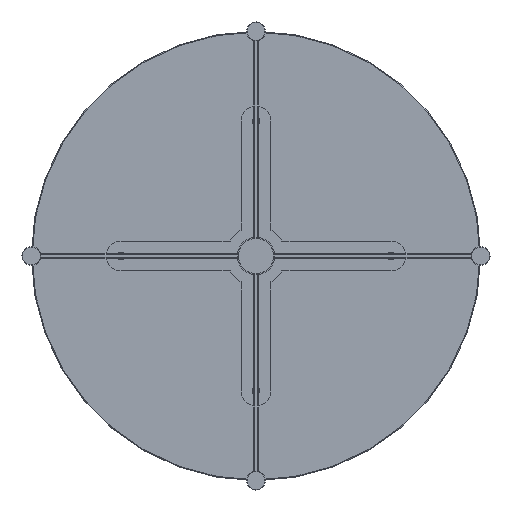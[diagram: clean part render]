
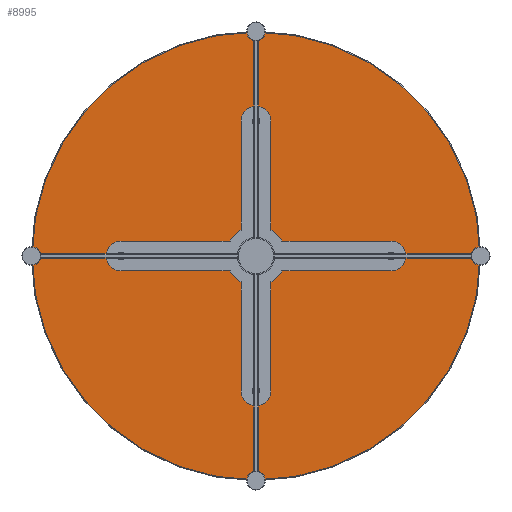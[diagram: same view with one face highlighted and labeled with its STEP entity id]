
A CAD part, front view. The second image highlights one B-rep face of the part: STEP entity #8995.
In plain terms, the highlighted planar face has unit normal (0, -1, 0).
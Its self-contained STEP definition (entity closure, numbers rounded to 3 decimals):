
#92 = CIRCLE ( 'NONE', #10940, 3. ) ;
#179 = CARTESIAN_POINT ( 'NONE',  ( 0., -10., 0. ) ) ;
#201 = DIRECTION ( 'NONE',  ( 0., 0., -1. ) ) ;
#323 = ORIENTED_EDGE ( 'NONE', *, *, #5792, .T. ) ;
#354 = DIRECTION ( 'NONE',  ( 0., 0., -1. ) ) ;
#372 = EDGE_CURVE ( 'NONE', #11084, #4681, #8305, .T. ) ;
#394 = DIRECTION ( 'NONE',  ( 0., 0., 1. ) ) ;
#427 = CARTESIAN_POINT ( 'NONE',  ( 0., -10., -299. ) ) ;
#643 = EDGE_LOOP ( 'NONE', ( #7289, #4114 ) ) ;
#648 = CARTESIAN_POINT ( 'NONE',  ( 0., -10., -177. ) ) ;
#885 = CIRCLE ( 'NONE', #2370, 3. ) ;
#887 = DIRECTION ( 'NONE',  ( 0., 0., -1. ) ) ;
#971 = CARTESIAN_POINT ( 'NONE',  ( 0., -10., -183. ) ) ;
#1002 = EDGE_CURVE ( 'NONE', #10027, #5142, #4578, .T. ) ;
#1136 = EDGE_CURVE ( 'NONE', #5836, #9392, #10999, .T. ) ;
#1318 = EDGE_LOOP ( 'NONE', ( #7001, #4859 ) ) ;
#1342 = DIRECTION ( 'NONE',  ( 0., 0., -1. ) ) ;
#1532 = DIRECTION ( 'NONE',  ( 0., 0., -1. ) ) ;
#1619 = CARTESIAN_POINT ( 'NONE',  ( 0., -10., -180. ) ) ;
#1697 = DIRECTION ( 'NONE',  ( 0., -1., 0. ) ) ;
#2021 = AXIS2_PLACEMENT_3D ( 'NONE', #10990, #5004, #10237 ) ;
#2101 = AXIS2_PLACEMENT_3D ( 'NONE', #179, #10015, #5536 ) ;
#2127 = FACE_BOUND ( 'NONE', #1318, .T. ) ;
#2370 = AXIS2_PLACEMENT_3D ( 'NONE', #7654, #11163, #1342 ) ;
#2379 = AXIS2_PLACEMENT_3D ( 'NONE', #11329, #7016, #7928 ) ;
#2553 = CARTESIAN_POINT ( 'NONE',  ( -180., -10., 3. ) ) ;
#2636 = CARTESIAN_POINT ( 'NONE',  ( 180., -10., -3. ) ) ;
#2671 = CARTESIAN_POINT ( 'NONE',  ( 0., -10., 180. ) ) ;
#2927 = CARTESIAN_POINT ( 'NONE',  ( 0., -10., 299. ) ) ;
#3160 = FACE_BOUND ( 'NONE', #643, .T. ) ;
#3212 = FACE_BOUND ( 'NONE', #5944, .T. ) ;
#3323 = DIRECTION ( 'NONE',  ( 0., -1., 0. ) ) ;
#3424 = ORIENTED_EDGE ( 'NONE', *, *, #9731, .T. ) ;
#3444 = CARTESIAN_POINT ( 'NONE',  ( 0., -10., 177. ) ) ;
#3847 = AXIS2_PLACEMENT_3D ( 'NONE', #6462, #9960, #354 ) ;
#4114 = ORIENTED_EDGE ( 'NONE', *, *, #5553, .F. ) ;
#4343 = ORIENTED_EDGE ( 'NONE', *, *, #8099, .F. ) ;
#4392 = CIRCLE ( 'NONE', #8789, 3. ) ;
#4419 = CIRCLE ( 'NONE', #2021, 3. ) ;
#4528 = DIRECTION ( 'NONE',  ( 0., -1., 0. ) ) ;
#4578 = CIRCLE ( 'NONE', #6407, 3. ) ;
#4594 = ORIENTED_EDGE ( 'NONE', *, *, #11031, .F. ) ;
#4681 = VERTEX_POINT ( 'NONE', #2553 ) ;
#4772 = PLANE ( 'NONE',  #11229 ) ;
#4803 = EDGE_LOOP ( 'NONE', ( #7521, #4343 ) ) ;
#4859 = ORIENTED_EDGE ( 'NONE', *, *, #7460, .F. ) ;
#4918 = CARTESIAN_POINT ( 'NONE',  ( 0., -10., 183. ) ) ;
#4937 = CARTESIAN_POINT ( 'NONE',  ( 0., -10., 0. ) ) ;
#4995 = CARTESIAN_POINT ( 'NONE',  ( -180., -10., -3. ) ) ;
#5004 = DIRECTION ( 'NONE',  ( 0., -1., 0. ) ) ;
#5142 = VERTEX_POINT ( 'NONE', #5778 ) ;
#5186 = EDGE_CURVE ( 'NONE', #9988, #6701, #4392, .T. ) ;
#5536 = DIRECTION ( 'NONE',  ( 0., 0., 1. ) ) ;
#5553 = EDGE_CURVE ( 'NONE', #6701, #9988, #11004, .T. ) ;
#5778 = CARTESIAN_POINT ( 'NONE',  ( 180., -10., 3. ) ) ;
#5784 = DIRECTION ( 'NONE',  ( 0., 0., -1. ) ) ;
#5792 = EDGE_CURVE ( 'NONE', #10210, #6661, #7328, .T. ) ;
#5836 = VERTEX_POINT ( 'NONE', #3444 ) ;
#5944 = EDGE_LOOP ( 'NONE', ( #10887, #4594 ) ) ;
#6028 = AXIS2_PLACEMENT_3D ( 'NONE', #2671, #1697, #887 ) ;
#6183 = CARTESIAN_POINT ( 'NONE',  ( 180., -10., 0. ) ) ;
#6407 = AXIS2_PLACEMENT_3D ( 'NONE', #6183, #4528, #201 ) ;
#6462 = CARTESIAN_POINT ( 'NONE',  ( 0., -10., -180. ) ) ;
#6650 = CARTESIAN_POINT ( 'NONE',  ( -180., -10., 0. ) ) ;
#6661 = VERTEX_POINT ( 'NONE', #427 ) ;
#6701 = VERTEX_POINT ( 'NONE', #648 ) ;
#6719 = FACE_BOUND ( 'NONE', #4803, .T. ) ;
#7001 = ORIENTED_EDGE ( 'NONE', *, *, #1136, .F. ) ;
#7016 = DIRECTION ( 'NONE',  ( 0., -1., 0. ) ) ;
#7289 = ORIENTED_EDGE ( 'NONE', *, *, #5186, .F. ) ;
#7328 = CIRCLE ( 'NONE', #2379, 299. ) ;
#7460 = EDGE_CURVE ( 'NONE', #9392, #5836, #885, .T. ) ;
#7521 = ORIENTED_EDGE ( 'NONE', *, *, #1002, .F. ) ;
#7654 = CARTESIAN_POINT ( 'NONE',  ( 0., -10., 180. ) ) ;
#7928 = DIRECTION ( 'NONE',  ( 0., 0., 1. ) ) ;
#8099 = EDGE_CURVE ( 'NONE', #5142, #10027, #4419, .T. ) ;
#8305 = CIRCLE ( 'NONE', #9230, 3. ) ;
#8638 = DIRECTION ( 'NONE',  ( 0., -1., 0. ) ) ;
#8789 = AXIS2_PLACEMENT_3D ( 'NONE', #1619, #8638, #11067 ) ;
#8995 = ADVANCED_FACE ( 'NONE', ( #11089, #6719, #2127, #3212, #3160 ), #4772, .F. ) ;
#9230 = AXIS2_PLACEMENT_3D ( 'NONE', #6650, #9288, #5784 ) ;
#9251 = EDGE_LOOP ( 'NONE', ( #323, #3424 ) ) ;
#9288 = DIRECTION ( 'NONE',  ( 0., -1., 0. ) ) ;
#9392 = VERTEX_POINT ( 'NONE', #4918 ) ;
#9430 = CIRCLE ( 'NONE', #2101, 299. ) ;
#9731 = EDGE_CURVE ( 'NONE', #6661, #10210, #9430, .T. ) ;
#9960 = DIRECTION ( 'NONE',  ( 0., -1., 0. ) ) ;
#9988 = VERTEX_POINT ( 'NONE', #971 ) ;
#10015 = DIRECTION ( 'NONE',  ( 0., -1., 0. ) ) ;
#10027 = VERTEX_POINT ( 'NONE', #2636 ) ;
#10210 = VERTEX_POINT ( 'NONE', #2927 ) ;
#10237 = DIRECTION ( 'NONE',  ( 0., 0., -1. ) ) ;
#10887 = ORIENTED_EDGE ( 'NONE', *, *, #372, .F. ) ;
#10940 = AXIS2_PLACEMENT_3D ( 'NONE', #11204, #3323, #1532 ) ;
#10979 = DIRECTION ( 'NONE',  ( 0., 1., 0. ) ) ;
#10990 = CARTESIAN_POINT ( 'NONE',  ( 180., -10., 0. ) ) ;
#10999 = CIRCLE ( 'NONE', #6028, 3. ) ;
#11004 = CIRCLE ( 'NONE', #3847, 3. ) ;
#11031 = EDGE_CURVE ( 'NONE', #4681, #11084, #92, .T. ) ;
#11067 = DIRECTION ( 'NONE',  ( 0., 0., -1. ) ) ;
#11084 = VERTEX_POINT ( 'NONE', #4995 ) ;
#11089 = FACE_OUTER_BOUND ( 'NONE', #9251, .T. ) ;
#11163 = DIRECTION ( 'NONE',  ( 0., -1., 0. ) ) ;
#11204 = CARTESIAN_POINT ( 'NONE',  ( -180., -10., 0. ) ) ;
#11229 = AXIS2_PLACEMENT_3D ( 'NONE', #4937, #10979, #394 ) ;
#11329 = CARTESIAN_POINT ( 'NONE',  ( 0., -10., 0. ) ) ;
